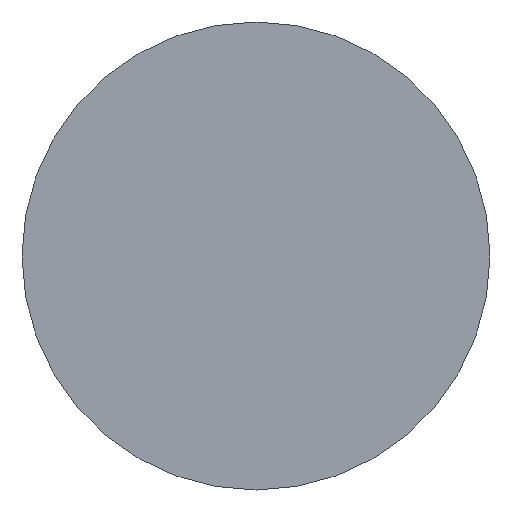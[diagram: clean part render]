
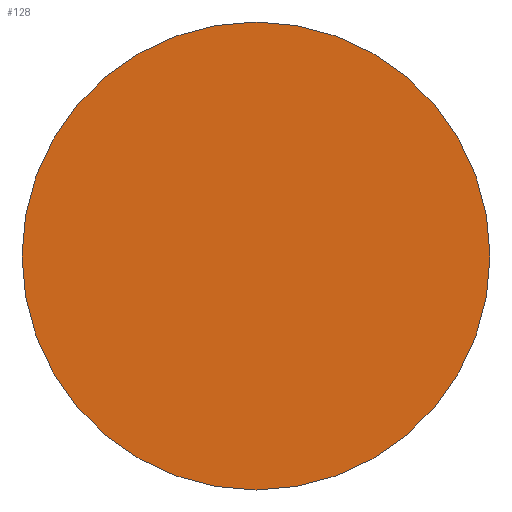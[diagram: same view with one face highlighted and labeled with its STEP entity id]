
A CAD part, front view. The second image highlights one B-rep face of the part: STEP entity #128.
In plain terms, the highlighted planar face has unit normal (0, -1, 0).
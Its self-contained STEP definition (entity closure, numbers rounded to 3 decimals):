
#18=PLANE('',#167);
#29=FACE_OUTER_BOUND('',#39,.T.);
#39=EDGE_LOOP('',(#112));
#62=CIRCLE('',#168,9.);
#72=VERTEX_POINT('',#244);
#86=EDGE_CURVE('',#72,#72,#62,.T.);
#112=ORIENTED_EDGE('',*,*,#86,.F.);
#128=ADVANCED_FACE('',(#29),#18,.T.);
#167=AXIS2_PLACEMENT_3D('',#243,#205,#206);
#168=AXIS2_PLACEMENT_3D('',#245,#207,#208);
#205=DIRECTION('center_axis',(0.,-1.,0.));
#206=DIRECTION('ref_axis',(0.,0.,-1.));
#207=DIRECTION('center_axis',(0.,1.,0.));
#208=DIRECTION('ref_axis',(1.,0.,0.));
#243=CARTESIAN_POINT('Origin',(9.,0.,0.));
#244=CARTESIAN_POINT('',(-9.,0.,0.));
#245=CARTESIAN_POINT('Origin',(0.,0.,0.));
